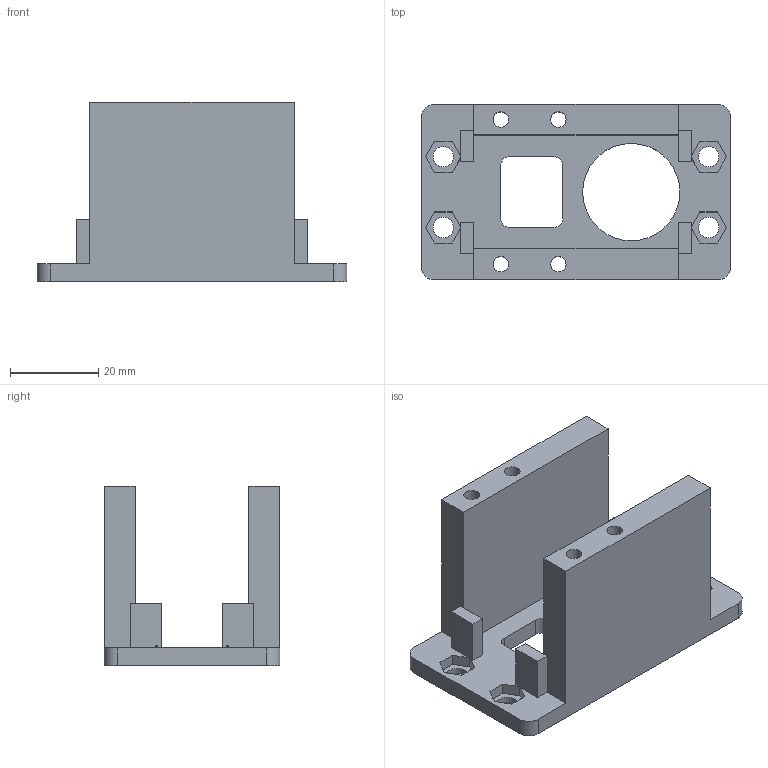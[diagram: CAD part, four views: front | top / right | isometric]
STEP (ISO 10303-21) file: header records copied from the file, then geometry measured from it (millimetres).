
FILE_DESCRIPTION(('Open CASCADE Model'),'2;1');
FILE_NAME('Open CASCADE Shape Model','2026-10-14T15:05:49',('Author'),( 'Open CASCADE'),'Open CASCADE STEP processor 7.8','Open CASCADE 7.8' ,'Unknown');
FILE_SCHEMA(('AUTOMOTIVE_DESIGN { 1 0 10303 214 1 1 1 1 }'));
Length unit declared in the file: millimetre
Products named in the file (1): Open CASCADE STEP translator 7.8 13
Bounding box: 70 x 39.72 x 40.5 mm (x, y, z)
Volume: 30811.7 mm3; surface area: 16212.1 mm2
Topology: 1 solids, 1 shells, 115 faces, 323 edges, 214 vertices
Faces by surface type: plane 98, cylinder 17
Full cylindrical faces by diameter (mm): 3.5 x4, 4.6 x4, 22 x1
Entity records: 7832 total; most frequent: CARTESIAN_POINT 1555, DIRECTION 1079, LINE 765, VECTOR 765, ORIENTED_EDGE 646, PCURVE 646, DEFINITIONAL_REPRESENTATION 646, EDGE_CURVE 323
